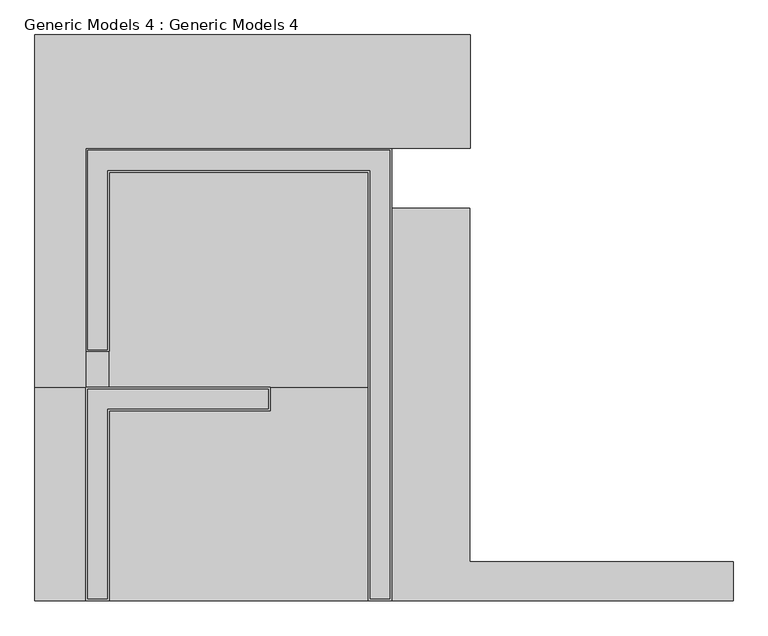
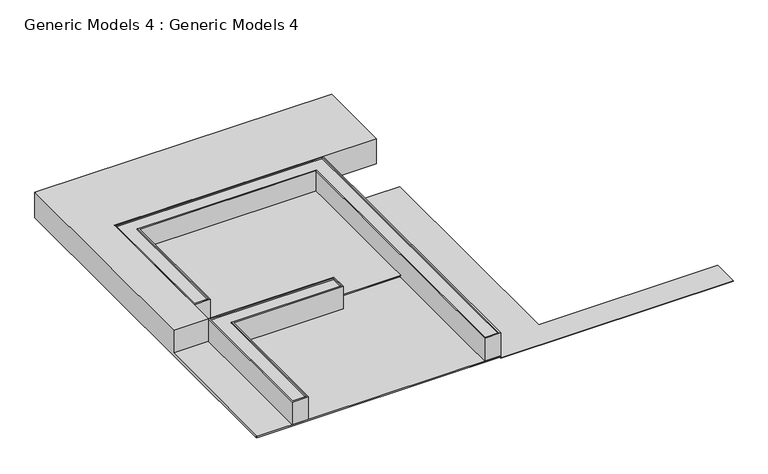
"""IFC4 building model written with IfcOpenShell, lengths in millimetres: proxy geometry, Generic Models 4 : Generic Models 4."""

from ifc_helpers import new_model, si_unit, origin, origin_with_axes, place, context, project, spatial, polyline, outline, extrude, faceted_brep, source, transform, mapped, element, save


def generic_models_4_generic_models_4_294038c3(model_context):
    return source(origin(), model_context, "Body", "SolidModel", [
        extrude(outline(polyline([(12843.1337784, -16658.2564752), (4142.6806272, -16658.2564752), (4142.6806272, -6658.2564752), (6132.6806272, -6658.2564752), (6132.6806272, -15668.2564752), (12843.1337784, -15668.2564752), (12843.1337784, -16658.2564752)])), origin_with_axes(), (0.0, 0.0, 1.0), 30.0),
        faceted_brep([(3543.1337784, -5728.2564752, 200.0), (-3056.8662216, -5728.2564752, 200.0), (-3056.8662216, -11218.4130328, 200.0), (3543.1337784, -11218.4130328, 200.0), (-3056.8662216, -11218.4130328, 100.0), (-3056.8662216, -5728.2564752, 100.0), (3543.1337784, -5728.2564752, 100.0), (3543.1337784, -11168.4130328, 100.0), (1043.1337784, -11168.4130328, 100.0), (1043.1337784, -11218.4130328, 100.0), (1043.1337784, -11218.4130328, 150.0), (3543.1337784, -11218.4130328, 150.0), (3543.1337784, -11168.4130328, 150.0), (1043.1337784, -11168.4130328, 150.0)], [[[0, 1, 2, 3]], [[4, 5, 6, 7, 8, 9]], [[1, 0, 6, 5]], [[2, 1, 5, 4]], [[3, 2, 4, 9, 10, 11]], [[0, 3, 11, 12, 7, 6]], [[12, 13, 8, 7]], [[8, 13, 10, 9]], [[13, 12, 11, 10]]]),
        faceted_brep([(6143.1337784, -5128.2564752, 1000.0), (6143.1337784, -2233.0793342, 1000.0), (-4956.8662216, -2233.0793342, 1000.0), (-4956.8662216, -11218.4130328, 1000.0), (-3656.8662216, -11218.4130328, 1000.0), (-3656.8662216, -5128.2564752, 1000.0), (6143.1337784, -5128.2564752, 0.0), (-3656.8662216, -5128.2564752, 0.0), (-3656.8662216, -5728.2564752, 0.0), (4142.6806272, -5728.2564752, 0.0), (4142.6806272, -16588.2564752, 0.0), (-4956.8662216, -16588.2564752, 0.0), (-4956.8662216, -2233.0793342, 0.0), (6143.1337784, -2233.0793342, 0.0), (-4956.8662216, -16588.2564752, 50.0), (-4956.8662216, -16658.2564752, 50.0), (-4956.8662216, -16658.2564752, 100.0), (-4956.8662216, -11218.4130328, 100.0), (-3656.8662216, -11218.4130328, 100.0), (-3656.8662216, -5728.2564752, 100.0), (4142.6806272, -16658.2564752, 100.0), (4142.6806272, -5728.2564752, 100.0), (4142.6806272, -16658.2564752, 50.0), (4142.6806272, -16588.2564752, 50.0)], [[[0, 1, 2, 3, 4, 5]], [[6, 7, 8, 9, 10, 11, 12, 13]], [[1, 0, 6, 13]], [[2, 1, 13, 12]], [[3, 2, 12, 11, 14, 15, 16, 17]], [[4, 3, 17, 18]], [[5, 4, 18, 19, 8, 7]], [[0, 5, 7, 6]], [[16, 20, 21, 19, 18, 17]], [[21, 9, 8, 19]], [[20, 16, 15, 22]], [[21, 20, 22, 23, 10, 9]], [[14, 23, 22, 15]], [[23, 14, 11, 10]]]),
        faceted_brep([(3543.1337784, -5128.2564752, 1000.0), (-3656.8662216, -5128.2564752, 1000.0), (-3656.8662216, -10304.0130328, 1000.0), (-3056.8662216, -10304.0130328, 1000.0), (-3056.8662216, -5728.2564752, 1000.0), (3543.1337784, -5728.2564752, 1000.0), (3543.1337784, -16658.2564752, 1000.0), (4142.6806272, -16658.2564752, 1000.0), (4142.6806272, -5128.2564752, 1000.0), (4092.6806272, -5178.2564752, 1000.0), (4092.6806272, -16608.2564752, 1000.0), (3593.1337784, -16608.2564752, 1000.0), (3593.1337784, -5678.2564752, 1000.0), (-3106.8662216, -5678.2564752, 1000.0), (-3106.8662216, -10254.0130328, 1000.0), (-3606.8662216, -10254.0130328, 1000.0), (-3606.8662216, -5178.2564752, 1000.0), (3729.7864663, -5178.2564752, 1000.0), (3543.1337784, -5128.2564752, 100.0), (4142.6806272, -5128.2564752, 100.0), (4142.6806272, -16658.2564752, 100.0), (3543.1337784, -16658.2564752, 100.0), (3543.1337784, -11218.4130328, 100.0), (3543.1337784, -11168.4130328, 100.0), (3543.1337784, -5728.2564752, 100.0), (-3056.8662216, -5728.2564752, 100.0), (-3056.8662216, -10304.0130328, 100.0), (-3656.8662216, -10304.0130328, 100.0), (-3656.8662216, -5128.2564752, 100.0), (4092.6806272, -5178.2564752, 950.0), (3729.7864663, -5178.2564752, 950.0), (-3606.8662216, -5178.2564752, 950.0), (-3606.8662216, -10254.0130328, 950.0), (-3106.8662216, -10254.0130328, 950.0), (-3106.8662216, -5678.2564752, 950.0), (3593.1337784, -5678.2564752, 950.0), (3593.1337784, -16608.2564752, 950.0), (4092.6806272, -16608.2564752, 950.0)], [[[0, 1, 2, 3, 4, 5, 6, 7, 8], [9, 10, 11, 12, 13, 14, 15, 16, 17]], [[18, 19, 20, 21, 22, 23, 24, 25, 26, 27, 28]], [[6, 5, 24, 23, 22, 21]], [[7, 6, 21, 20]], [[8, 7, 20, 19]], [[0, 8, 19, 18]], [[29, 30, 31, 32, 33, 34, 35, 36, 37]], [[29, 37, 10, 9]], [[37, 36, 11, 10]], [[36, 35, 12, 11]], [[30, 29, 9, 17]], [[1, 0, 18, 28]], [[2, 1, 28, 27]], [[5, 4, 25, 24]], [[35, 34, 13, 12]], [[34, 33, 14, 13]], [[31, 30, 17, 16]], [[3, 2, 27, 26]], [[4, 3, 26, 25]], [[33, 32, 15, 14]], [[32, 31, 16, 15]]]),
        faceted_brep([(-3056.8662216, -16658.2564752, 1000.0), (-3056.8662216, -11818.4130328, 1000.0), (1043.1337784, -11818.4130328, 1000.0), (1043.1337784, -11218.4130328, 1000.0), (-3056.8662216, -11218.4130328, 1000.0), (-3656.8662216, -11218.4130328, 1000.0), (-3656.8662216, -16658.2564752, 1000.0), (-3106.8662216, -16608.2564752, 1000.0), (-3606.8662216, -16608.2564752, 1000.0), (-3606.8662216, -11268.4130328, 1000.0), (-3236.5752053, -11268.4130328, 1000.0), (993.1337784, -11268.4130328, 1000.0), (993.1337784, -11768.4130328, 1000.0), (-3106.8662216, -11768.4130328, 1000.0), (-3056.8662216, -16658.2564752, 100.0), (-3656.8662216, -16658.2564752, 100.0), (-3656.8662216, -11218.4130328, 100.0), (-3056.8662216, -11218.4130328, 100.0), (1043.1337784, -11218.4130328, 100.0), (1043.1337784, -11818.4130328, 100.0), (-3056.8662216, -11818.4130328, 100.0), (-3606.8662216, -11268.4130328, 950.0), (-3606.8662216, -16608.2564752, 950.0), (-3106.8662216, -16608.2564752, 950.0), (-3106.8662216, -11768.4130328, 950.0), (993.1337784, -11768.4130328, 950.0), (993.1337784, -11268.4130328, 950.0), (-3236.5752053, -11268.4130328, 950.0), (1043.1337784, -11218.4130328, 150.0)], [[[0, 1, 2, 3, 4, 5, 6], [7, 8, 9, 10, 11, 12, 13]], [[14, 15, 16, 17, 18, 19, 20]], [[21, 22, 23, 24, 25, 26, 27]], [[0, 6, 15, 14]], [[1, 0, 14, 20]], [[23, 22, 8, 7]], [[22, 21, 9, 8]], [[5, 4, 17, 16]], [[6, 5, 16, 15]], [[21, 27, 10, 9]], [[24, 23, 7, 13]], [[2, 1, 20, 19]], [[3, 2, 19, 18, 28]], [[4, 3, 28, 18, 17]], [[27, 26, 11, 10]], [[26, 25, 12, 11]], [[25, 24, 13, 12]]]),
    ])


if __name__ == "__main__":
    model = new_model("IFC4")
    model_context = context("Model", 3, world=origin())
    ifc_project = project(units=[si_unit("LENGTHUNIT", "METRE", prefix="MILLI")], contexts=[model_context])
    site = spatial("IfcSite", under=ifc_project)
    building = spatial("IfcBuilding", under=site)
    placement = place(None, origin())
    generic_models_4_generic_models_4_shape = generic_models_4_generic_models_4_294038c3(model_context)
    element("IfcBuildingElementProxy", 1, Name="Generic Models 4 : Generic Models 4", ObjectType="Generic Models 4 : Generic Models 4", at=placement, inside=building, context=model_context, shape_type="MappedRepresentation", body=[
        mapped(generic_models_4_generic_models_4_shape, transform((0.0, 0.0, 0.0), x_axis=(1.0, 0.0, 0.0), y_axis=(0.0, 1.0, 0.0), z_axis=(0.0, 0.0, 1.0))),
    ])
    save(model, "model.ifc")
